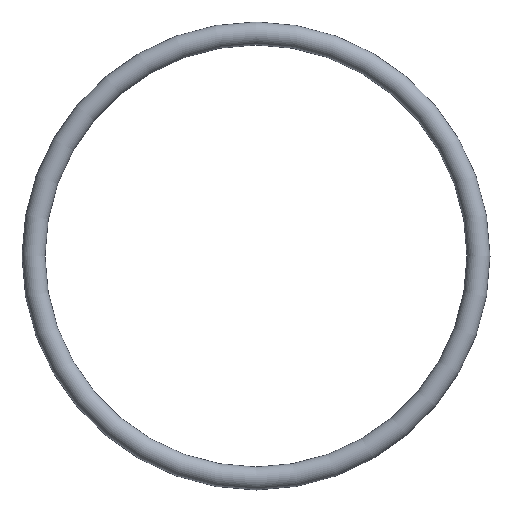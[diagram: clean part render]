
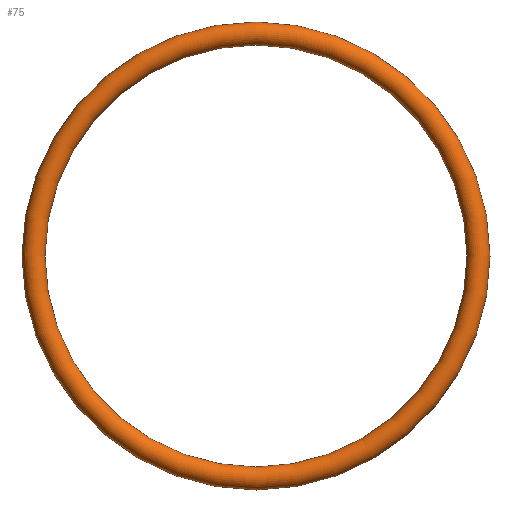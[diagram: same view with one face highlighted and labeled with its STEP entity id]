
A CAD part, front view. The second image highlights one B-rep face of the part: STEP entity #75.
In plain terms, the highlighted toroidal (fillet/blend) face has major radius 29 mm and minor radius 1.5 mm.
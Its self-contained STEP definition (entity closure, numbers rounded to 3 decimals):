
#75 = ADVANCED_FACE( '', ( #77 ), #78, .T. );
#77 = FACE_BOUND( '', #79, .T. );
#78 = TOROIDAL_SURFACE( '', #80, 29., 1.5 );
#79 = VERTEX_LOOP( '', #81 );
#80 = AXIS2_PLACEMENT_3D( '', #82, #83, #84 );
#81 = VERTEX_POINT( '', #85 );
#82 = CARTESIAN_POINT( '', ( 0., 0., 0. ) );
#83 = DIRECTION( '', ( 0., -1., 0. ) );
#84 = DIRECTION( '', ( 0., 0., -1. ) );
#85 = CARTESIAN_POINT( '', ( 0., 0., -30.5 ) );
